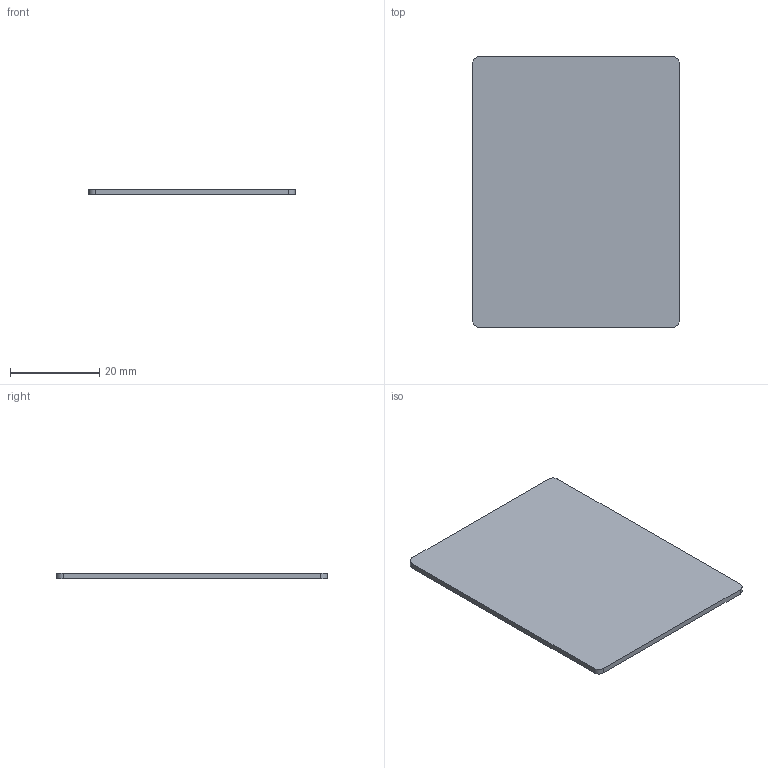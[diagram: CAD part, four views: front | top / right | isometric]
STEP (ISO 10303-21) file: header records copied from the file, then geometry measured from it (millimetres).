
FILE_DESCRIPTION((''),'2;1');
FILE_NAME('ID-GTC-LENS-PRE_PRT','2008-06-30T',('GRA'),(''),'PRO/ENGINEER BY PARAMETRIC TECHNOLOGY CORPORATION, 2006170','PRO/ENGINEER BY PARAMETRIC TECHNOLOGY CORPORATION, 2006170','');
FILE_SCHEMA(('CONFIG_CONTROL_DESIGN'));
Length unit declared in the file: millimetre
Products named in the file (1): ID-GTC-LENS-PRE_PRT
Bounding box: 46.2 x 60.6 x 1.2 mm (x, y, z)
Volume: 3357.3 mm3; surface area: 5848.8 mm2
Topology: 1 solids, 1 shells, 10 faces, 24 edges, 16 vertices
Faces by surface type: plane 6, cylinder 4
Entity records: 334 total; most frequent: DIRECTION 52, CARTESIAN_POINT 50, ORIENTED_EDGE 48, EDGE_CURVE 24, AXIS2_PLACEMENT_3D 18, VECTOR 16, LINE 16, VERTEX_POINT 16
